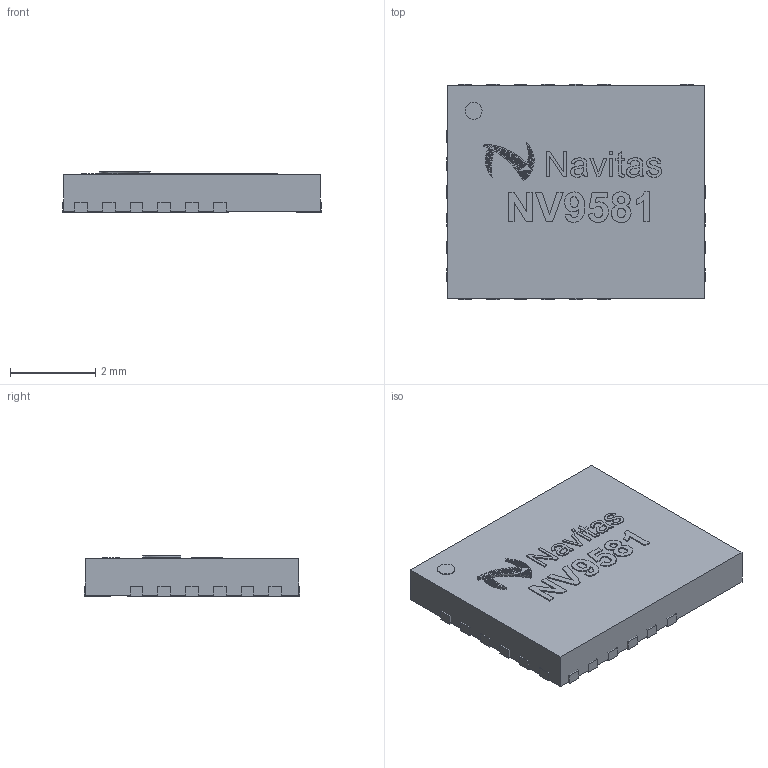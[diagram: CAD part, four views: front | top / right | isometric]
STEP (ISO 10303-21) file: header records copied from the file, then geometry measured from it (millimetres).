
FILE_DESCRIPTION(/* description */ (''),/* implementation_level */ '2;1');
FILE_NAME(/* name */ 'NV9581.step',/* time_stamp */ '2023-02-12T11:47:40-08:00',/* author */ (''),/* organization */ (''),/* preprocessor_version */ 'ST-DEVELOPER v19.2',/* originating_system */ 'Autodesk Translation Framework v11.17.0.187',/* authorisation */ '');
FILE_SCHEMA (('AUTOMOTIVE_DESIGN { 1 0 10303 214 3 1 1 }'));
Length unit declared in the file: millimetre
Products named in the file (1): NV9580
Bounding box: 6.05 x 5.05 x 0.94 mm (x, y, z)
Volume: 29.2 mm3; surface area: 126.3 mm2
Topology: 27 solids, 27 shells, 1261 faces, 2352 edges, 1145 vertices
Faces by surface type: plane 1070, bspline 179, cylinder 12
Full cylindrical faces by diameter (mm): 0.4 x1
Entity records: 30802 total; most frequent: CARTESIAN_POINT 7802, ORIENTED_EDGE 4704, DIRECTION 4184, EDGE_CURVE 2352, LINE 1970, VECTOR 1970, EDGE_LOOP 1271, FACE_OUTER_BOUND 1261
